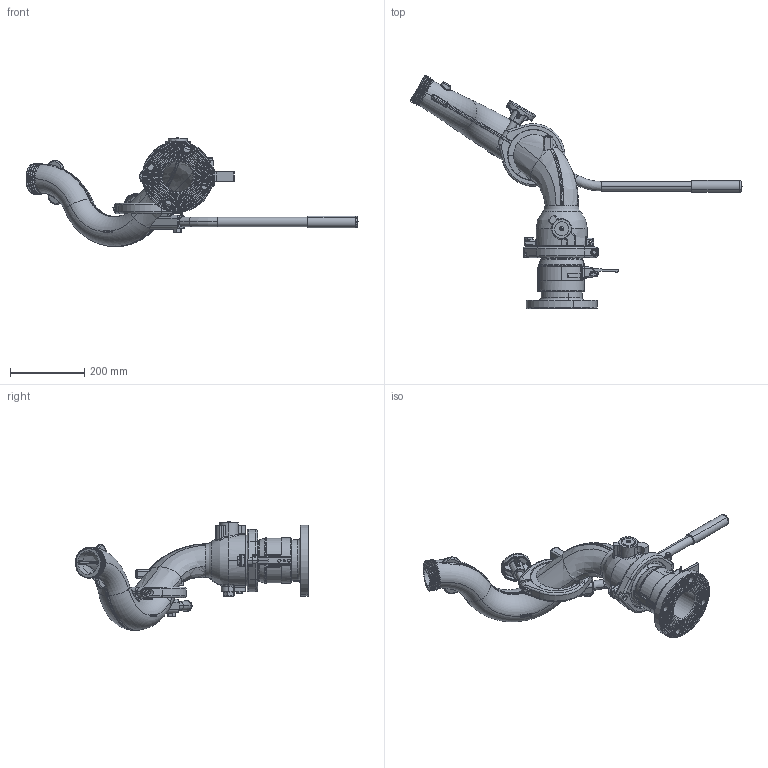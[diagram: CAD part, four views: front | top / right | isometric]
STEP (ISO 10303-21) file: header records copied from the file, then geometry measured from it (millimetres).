
FILE_DESCRIPTION (( 'STEP AP203' ), '1' );
FILE_NAME ('Z1211A_30_Up.STEP', '2014-10-30T18:40:22', ( '' ), ( '' ), 'SwSTEP 2.0', 'SolidWorks 2014', '' );
FILE_SCHEMA (( 'CONFIG_CONTROL_DESIGN' ));
Products named in the file (1): Z1211A_30_Up
Bounding box: 893.22 x 627.59 x 295.13 mm (x, y, z)
Surface area: 675469.8 mm2 (no closed solid volume)
Topology: 0 solids, 38 shells, 1068 faces, 3583 edges, 2450 vertices
Faces by surface type: bspline 308, plane 271, cylinder 256, torus 154, cone 71, sphere 8
Entity records: 155059 total; most frequent: CARTESIAN_POINT 128260, ORIENTED_EDGE 5926, DIRECTION 4458, EDGE_CURVE 3576, VERTEX_POINT 2450, AXIS2_PLACEMENT_3D 1691, B_SPLINE_CURVE_WITH_KNOTS 1336, EDGE_LOOP 1133
